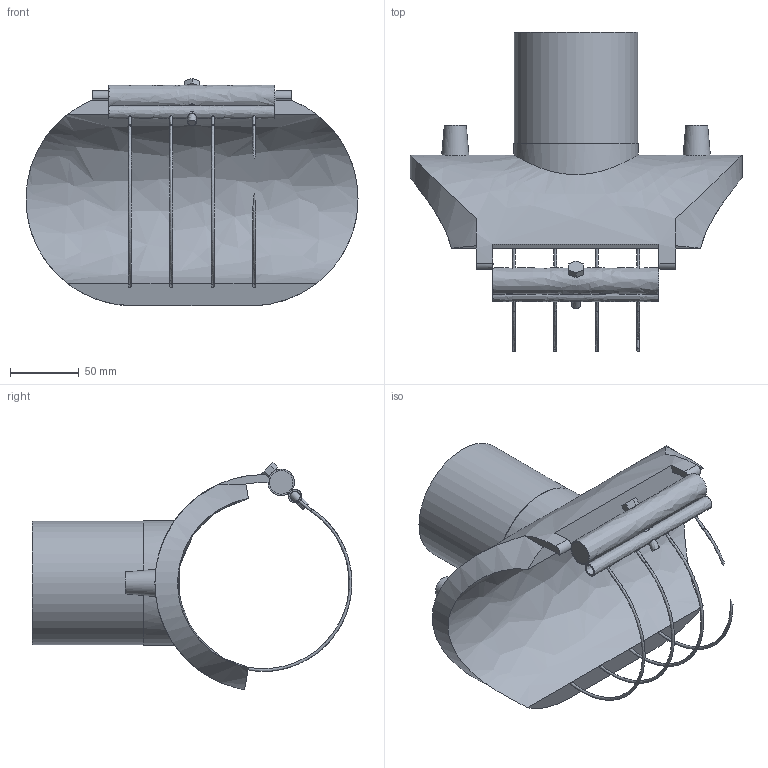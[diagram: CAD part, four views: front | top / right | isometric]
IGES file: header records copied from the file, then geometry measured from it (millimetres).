
Global section: file name: 4958X4125090T; native system: Autodesk Inventor 2021; preprocessor: unknown; author: KIM; date: 20250507.121501; units: millimetre
Bounding box: 242 x 233 x 165.73 mm (x, y, z)
Volume: 919538.8 mm3; surface area: 178274.3 mm2
Topology: 1 solids, 1 shells, 62 faces, 187 edges, 126 vertices
Faces by surface type: bspline 62
